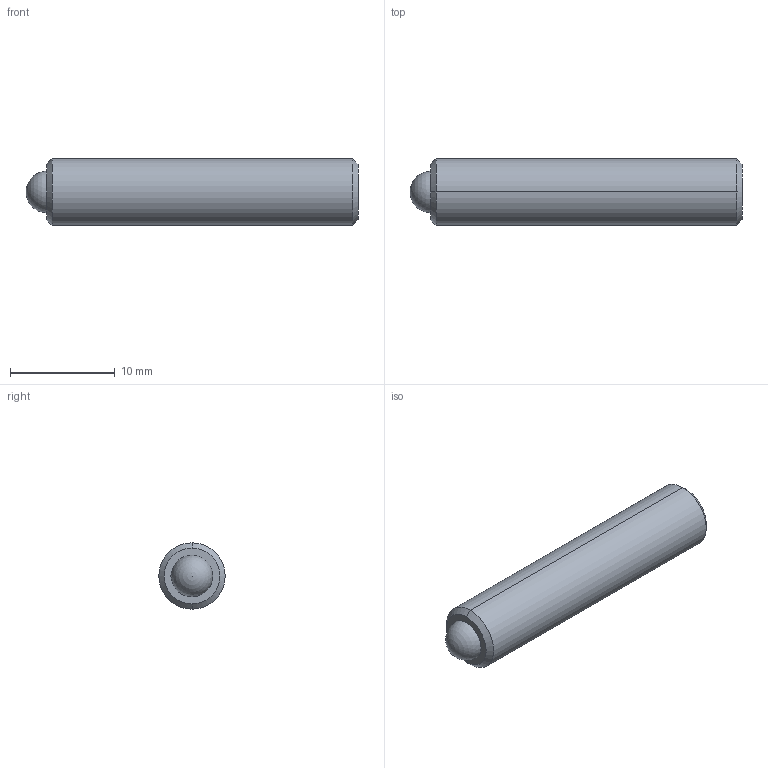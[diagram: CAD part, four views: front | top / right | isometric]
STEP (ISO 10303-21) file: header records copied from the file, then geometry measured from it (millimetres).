
FILE_DESCRIPTION (( 'STEP AP214' ), '1' );
FILE_NAME ('TS250-80-1250-HV.STEP', '2013-05-09T12:57:11', ( 'workpc' ), ( 'Microsoft' ), 'SwSTEP 2.0', 'SolidWorks 2013', '' );
FILE_SCHEMA (( 'AUTOMOTIVE_DESIGN' ));
Length unit declared in the file: inch
Products named in the file (1): TS250-80-1250-HV
Bounding box: 31.75 x 6.35 x 6.35 mm (x, y, z)
Volume: 934.8 mm3; surface area: 737.8 mm2
Topology: 2 solids, 2 shells, 29 faces, 69 edges, 44 vertices
Faces by surface type: cylinder 12, plane 11, cone 4, sphere 2
Entity records: 886 total; most frequent: DIRECTION 149, CARTESIAN_POINT 144, ORIENTED_EDGE 128, EDGE_CURVE 64, AXIS2_PLACEMENT_3D 58, VERTEX_POINT 41, VECTOR 33, LINE 33
